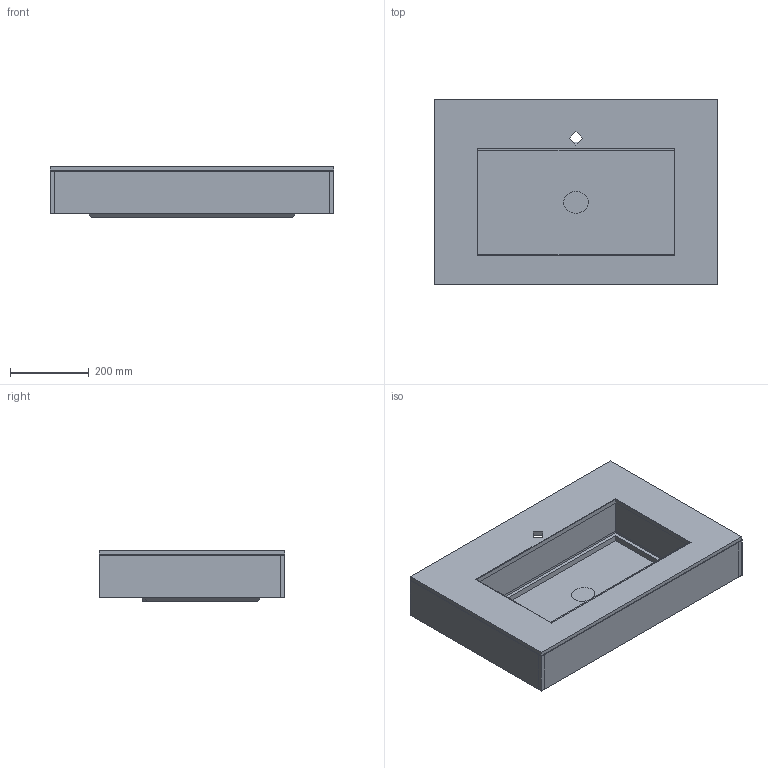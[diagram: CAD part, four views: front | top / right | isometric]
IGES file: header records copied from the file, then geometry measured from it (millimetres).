
Start section: Data from Parasolid IGES Translator 22.0.50, Copyright(c) 2006 Siemens P LM Software. All Rights Reserved.
Global section: file name: noorth-top-H 12 D 47,2 W 72_4370.igs; native system: By Siemens PLM Incorporated; preprocessor: XPlus GENERIC/IGES 22.0.50; author: Noname; organization: Noname; date: 20251109.143424; units: metre
Bounding box: 720 x 472 x 129.29 mm (x, y, z)
Volume: 13906045.2 mm3; surface area: 1787937.1 mm2
Topology: 12 solids, 12 shells, 115 faces, 257 edges, 183 vertices
Faces by surface type: plane 97, bspline 9, extrusion 8, cylinder 1
Full cylindrical faces by diameter (mm): 34.697 x1
